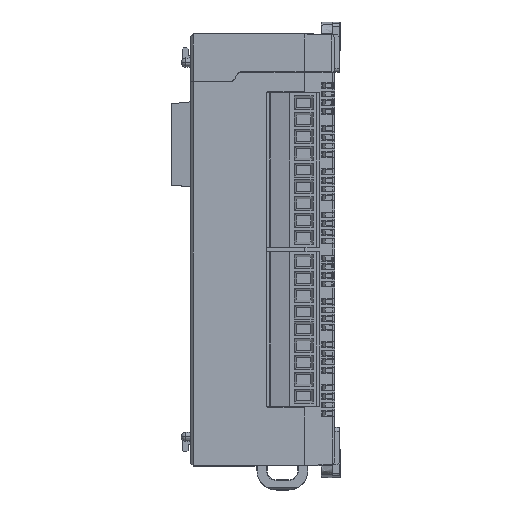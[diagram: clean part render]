
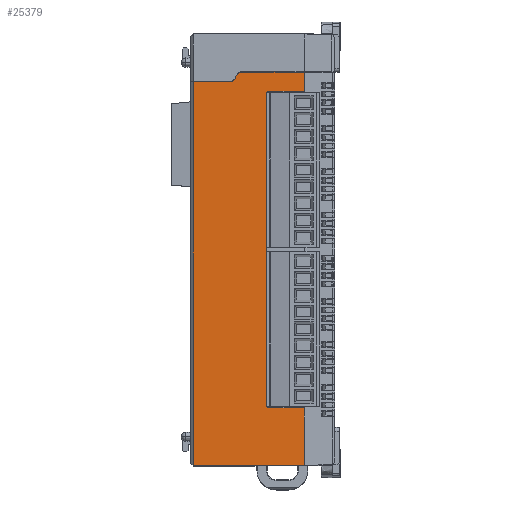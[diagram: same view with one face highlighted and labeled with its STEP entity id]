
A CAD part, top view. The second image highlights one B-rep face of the part: STEP entity #25379.
In plain terms, the highlighted planar face has unit normal (0, 0, 1).
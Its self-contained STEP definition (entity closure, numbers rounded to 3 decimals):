
#2525 = AXIS2_PLACEMENT_3D ( 'NONE', #85810, #73417, #18023 ) ;
#3051 = ORIENTED_EDGE ( 'NONE', *, *, #129788, .F. ) ;
#3693 = EDGE_CURVE ( 'NONE', #47121, #21992, #72325, .T. ) ;
#3790 = EDGE_CURVE ( 'NONE', #21530, #40937, #119327, .T. ) ;
#4248 = LINE ( 'NONE', #104808, #55832 ) ;
#5090 = CARTESIAN_POINT ( 'NONE',  ( -83.303, 60.003, 63.277 ) ) ;
#5659 = DIRECTION ( 'NONE',  ( 0., -1., 0. ) ) ;
#6566 = VECTOR ( 'NONE', #120638, 1000. ) ;
#7678 = DIRECTION ( 'NONE',  ( 0., -1., 0. ) ) ;
#8558 = DIRECTION ( 'NONE',  ( 0., -1., 0. ) ) ;
#8628 = ORIENTED_EDGE ( 'NONE', *, *, #83754, .T. ) ;
#9128 = FACE_OUTER_BOUND ( 'NONE', #111289, .T. ) ;
#9610 = EDGE_CURVE ( 'NONE', #26106, #138504, #85079, .T. ) ;
#9743 = DIRECTION ( 'NONE',  ( 0., 0., -1. ) ) ;
#12342 = CARTESIAN_POINT ( 'NONE',  ( -67.871, -7.997, 63.277 ) ) ;
#12593 = ORIENTED_EDGE ( 'NONE', *, *, #133179, .F. ) ;
#13937 = CARTESIAN_POINT ( 'NONE',  ( -75.121, -7.247, 63.277 ) ) ;
#14447 = ORIENTED_EDGE ( 'NONE', *, *, #118130, .F. ) ;
#15299 = DIRECTION ( 'NONE',  ( 0., 0., 1. ) ) ;
#15448 = CARTESIAN_POINT ( 'NONE',  ( -75.871, 57.253, 63.277 ) ) ;
#15939 = ORIENTED_EDGE ( 'NONE', *, *, #104471, .T. ) ;
#18023 = DIRECTION ( 'NONE',  ( 1., 0., 0. ) ) ;
#18343 = EDGE_CURVE ( 'NONE', #40937, #138504, #114130, .T. ) ;
#19157 = EDGE_CURVE ( 'NONE', #26555, #53997, #117038, .T. ) ;
#19276 = VERTEX_POINT ( 'NONE', #55053 ) ;
#19485 = CARTESIAN_POINT ( 'NONE',  ( -91.071, -19.997, 63.277 ) ) ;
#21530 = VERTEX_POINT ( 'NONE', #29053 ) ;
#21992 = VERTEX_POINT ( 'NONE', #63890 ) ;
#24932 = LINE ( 'NONE', #15448, #98184 ) ;
#25379 = ADVANCED_FACE ( 'NONE', ( #9128 ), #96582, .T. ) ;
#25524 = DIRECTION ( 'NONE',  ( 0., -1., 0. ) ) ;
#26106 = VERTEX_POINT ( 'NONE', #12342 ) ;
#26555 = VERTEX_POINT ( 'NONE', #66139 ) ;
#29053 = CARTESIAN_POINT ( 'NONE',  ( -91.071, 60.003, 63.277 ) ) ;
#33232 = CIRCLE ( 'NONE', #44926, 1. ) ;
#34229 = AXIS2_PLACEMENT_3D ( 'NONE', #13937, #71492, #80287 ) ;
#35138 = VERTEX_POINT ( 'NONE', #80830 ) ;
#36769 = DIRECTION ( 'NONE',  ( 1., 0., 0. ) ) ;
#37606 = CARTESIAN_POINT ( 'NONE',  ( -91.571, -19.997, 63.277 ) ) ;
#39085 = AXIS2_PLACEMENT_3D ( 'NONE', #107391, #9743, #74620 ) ;
#40937 = VERTEX_POINT ( 'NONE', #51689 ) ;
#41464 = VECTOR ( 'NONE', #72590, 1000. ) ;
#42489 = DIRECTION ( 'NONE',  ( -1., 0., 0. ) ) ;
#44926 = AXIS2_PLACEMENT_3D ( 'NONE', #104192, #15299, #25524 ) ;
#46666 = ORIENTED_EDGE ( 'NONE', *, *, #3693, .F. ) ;
#47121 = VERTEX_POINT ( 'NONE', #125298 ) ;
#48183 = CIRCLE ( 'NONE', #34229, 0.75 ) ;
#51689 = CARTESIAN_POINT ( 'NONE',  ( -91.071, -19.997, 63.277 ) ) ;
#53596 = CARTESIAN_POINT ( 'NONE',  ( -91.571, 70.003, 63.277 ) ) ;
#53997 = VERTEX_POINT ( 'NONE', #118289 ) ;
#55053 = CARTESIAN_POINT ( 'NONE',  ( -80.994, 62.003, 63.277 ) ) ;
#55636 = EDGE_CURVE ( 'NONE', #122235, #83021, #4248, .T. ) ;
#55832 = VECTOR ( 'NONE', #104068, 1000. ) ;
#57607 = ORIENTED_EDGE ( 'NONE', *, *, #3790, .T. ) ;
#63890 = CARTESIAN_POINT ( 'NONE',  ( -75.871, 57.253, 63.277 ) ) ;
#66139 = CARTESIAN_POINT ( 'NONE',  ( -67.871, 62.003, 63.277 ) ) ;
#69486 = VECTOR ( 'NONE', #36769, 1000. ) ;
#71492 = DIRECTION ( 'NONE',  ( 0., 0., 1. ) ) ;
#72325 = CIRCLE ( 'NONE', #2525, 0.75 ) ;
#72590 = DIRECTION ( 'NONE',  ( 0., -1., 0. ) ) ;
#73227 = EDGE_CURVE ( 'NONE', #19276, #26555, #98764, .T. ) ;
#73417 = DIRECTION ( 'NONE',  ( 0., 0., 1. ) ) ;
#74620 = DIRECTION ( 'NONE',  ( 0., -1., 0. ) ) ;
#78500 = VECTOR ( 'NONE', #116302, 1000. ) ;
#79574 = VECTOR ( 'NONE', #121082, 1000. ) ;
#80287 = DIRECTION ( 'NONE',  ( 1., 0., 0. ) ) ;
#80345 = VERTEX_POINT ( 'NONE', #83645 ) ;
#80830 = CARTESIAN_POINT ( 'NONE',  ( -75.121, -7.997, 63.277 ) ) ;
#82543 = ORIENTED_EDGE ( 'NONE', *, *, #87382, .F. ) ;
#83021 = VERTEX_POINT ( 'NONE', #97552 ) ;
#83645 = CARTESIAN_POINT ( 'NONE',  ( -75.871, -7.247, 63.277 ) ) ;
#83754 = EDGE_CURVE ( 'NONE', #122235, #121995, #101904, .T. ) ;
#85079 = LINE ( 'NONE', #129519, #129411 ) ;
#85810 = CARTESIAN_POINT ( 'NONE',  ( -75.121, 57.253, 63.277 ) ) ;
#85919 = CARTESIAN_POINT ( 'NONE',  ( -67.871, -19.997, 63.277 ) ) ;
#87382 = EDGE_CURVE ( 'NONE', #21530, #121995, #89001, .T. ) ;
#89001 = LINE ( 'NONE', #109414, #79574 ) ;
#89483 = EDGE_CURVE ( 'NONE', #21992, #80345, #24932, .T. ) ;
#90728 = CARTESIAN_POINT ( 'NONE',  ( -75.121, -7.997, 63.277 ) ) ;
#91245 = AXIS2_PLACEMENT_3D ( 'NONE', #53596, #95865, #7678 ) ;
#93603 = LINE ( 'NONE', #90728, #69486 ) ;
#95865 = DIRECTION ( 'NONE',  ( 0., 0., 1. ) ) ;
#96582 = PLANE ( 'NONE',  #91245 ) ;
#97552 = CARTESIAN_POINT ( 'NONE',  ( -81.86, 61.503, 63.277 ) ) ;
#98184 = VECTOR ( 'NONE', #134285, 1000. ) ;
#98764 = LINE ( 'NONE', #122778, #6566 ) ;
#101904 = CIRCLE ( 'NONE', #39085, 1. ) ;
#102377 = ORIENTED_EDGE ( 'NONE', *, *, #9610, .F. ) ;
#104068 = DIRECTION ( 'NONE',  ( 0.5, 0.866, 0. ) ) ;
#104192 = CARTESIAN_POINT ( 'NONE',  ( -80.994, 61.003, 63.277 ) ) ;
#104471 = EDGE_CURVE ( 'NONE', #19276, #83021, #33232, .T. ) ;
#104808 = CARTESIAN_POINT ( 'NONE',  ( -81.571, 62.003, 63.277 ) ) ;
#106148 = ORIENTED_EDGE ( 'NONE', *, *, #19157, .F. ) ;
#107391 = CARTESIAN_POINT ( 'NONE',  ( -83.303, 61.003, 63.277 ) ) ;
#108774 = LINE ( 'NONE', #142307, #139672 ) ;
#109414 = CARTESIAN_POINT ( 'NONE',  ( -82.726, 60.003, 63.277 ) ) ;
#110985 = ORIENTED_EDGE ( 'NONE', *, *, #18343, .T. ) ;
#111289 = EDGE_LOOP ( 'NONE', ( #14447, #106148, #126872, #15939, #126537, #8628, #82543, #57607, #110985, #102377, #12593, #3051, #129937, #46666 ) ) ;
#114130 = LINE ( 'NONE', #37606, #78500 ) ;
#116302 = DIRECTION ( 'NONE',  ( 1., 0., 0. ) ) ;
#117038 = LINE ( 'NONE', #119209, #41464 ) ;
#118130 = EDGE_CURVE ( 'NONE', #53997, #47121, #108774, .T. ) ;
#118289 = CARTESIAN_POINT ( 'NONE',  ( -67.871, 58.003, 63.277 ) ) ;
#119209 = CARTESIAN_POINT ( 'NONE',  ( -67.871, 25.003, 63.277 ) ) ;
#119327 = LINE ( 'NONE', #19485, #139826 ) ;
#120638 = DIRECTION ( 'NONE',  ( 1., 0., 0. ) ) ;
#121082 = DIRECTION ( 'NONE',  ( 1., 0., 0. ) ) ;
#121995 = VERTEX_POINT ( 'NONE', #5090 ) ;
#122235 = VERTEX_POINT ( 'NONE', #133268 ) ;
#122778 = CARTESIAN_POINT ( 'NONE',  ( -67.871, 62.003, 63.277 ) ) ;
#125298 = CARTESIAN_POINT ( 'NONE',  ( -75.121, 58.003, 63.277 ) ) ;
#126537 = ORIENTED_EDGE ( 'NONE', *, *, #55636, .F. ) ;
#126872 = ORIENTED_EDGE ( 'NONE', *, *, #73227, .F. ) ;
#129411 = VECTOR ( 'NONE', #5659, 1000. ) ;
#129519 = CARTESIAN_POINT ( 'NONE',  ( -67.871, 70.003, 63.277 ) ) ;
#129788 = EDGE_CURVE ( 'NONE', #80345, #35138, #48183, .T. ) ;
#129937 = ORIENTED_EDGE ( 'NONE', *, *, #89483, .F. ) ;
#133179 = EDGE_CURVE ( 'NONE', #35138, #26106, #93603, .T. ) ;
#133268 = CARTESIAN_POINT ( 'NONE',  ( -82.437, 60.503, 63.277 ) ) ;
#134285 = DIRECTION ( 'NONE',  ( 0., -1., 0. ) ) ;
#138504 = VERTEX_POINT ( 'NONE', #85919 ) ;
#139672 = VECTOR ( 'NONE', #42489, 1000. ) ;
#139826 = VECTOR ( 'NONE', #8558, 1000. ) ;
#142307 = CARTESIAN_POINT ( 'NONE',  ( -67.871, 58.003, 63.277 ) ) ;
